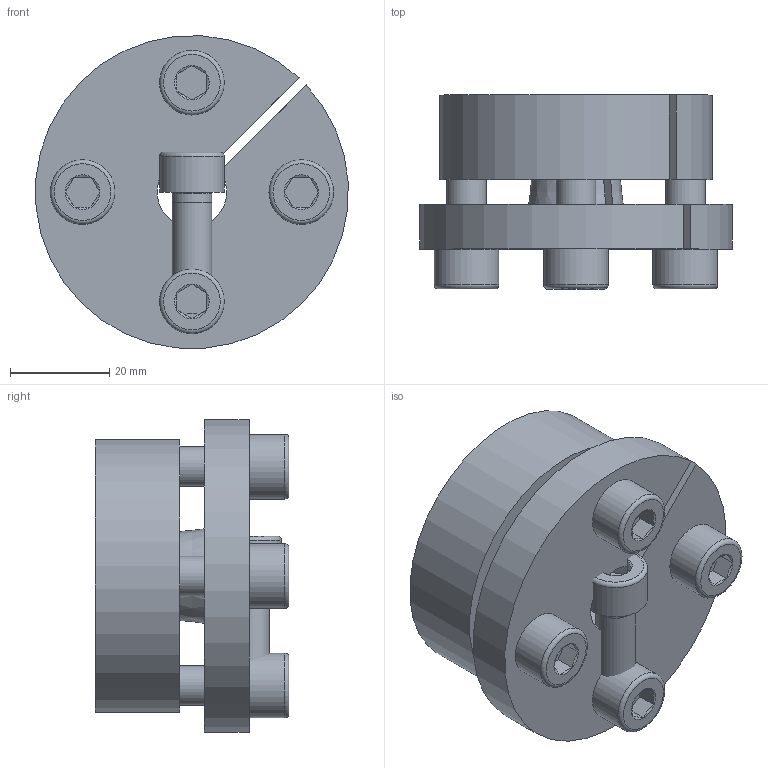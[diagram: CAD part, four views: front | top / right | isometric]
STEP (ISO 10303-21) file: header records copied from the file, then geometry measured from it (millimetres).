
FILE_DESCRIPTION( ( 'Unknown' ), '1' );
FILE_NAME( 'C:/Dokumente und Einstellungen/Sven/Desktop/15/KBS 15 - 14 x 55.stp', 'Unknown', ( 'Unknown' ), ( 'Unknown' ), 'XStep 1.0', 'Unknown', ' ' );
FILE_SCHEMA( ( 'automotive_design' ) );
Length unit declared in the file: millimetre
Products named in the file (3): Assem1; ISO EN DIN 4762 M8x25; KBS 15 - 14 x 55_0
Bounding box: 62.84 x 39 x 62.84 mm (x, y, z)
Volume: 129271.4 mm3; surface area: 44610.4 mm2
Topology: 7 solids, 7 shells, 165 faces, 342 edges, 211 vertices
Faces by surface type: plane 74, cylinder 42, cone 39, torus 10
Full cylindrical faces by diameter (mm): 6.647 x8, 7 x5, 8 x10, 9 x8, 13 x5
Entity records: 1434 total; most frequent: CARTESIAN_POINT 233, DIRECTION 224, ORIENTED_EDGE 162, AXIS2_PLACEMENT_3D 98, EDGE_CURVE 81, EDGE_LOOP 80, FACE_OUTER_BOUND 59, VERTEX_POINT 59
